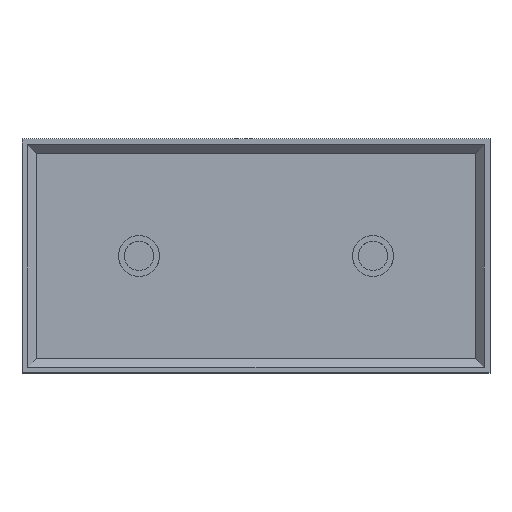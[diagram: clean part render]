
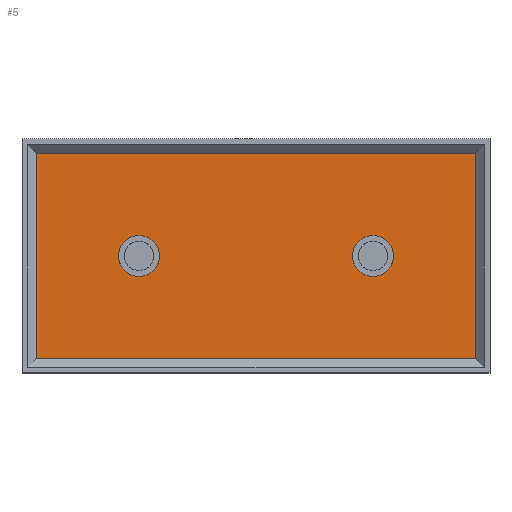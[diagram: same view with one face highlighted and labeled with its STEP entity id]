
A CAD part, top view. The second image highlights one B-rep face of the part: STEP entity #5.
In plain terms, the highlighted planar face has unit normal (0, 0, 1).
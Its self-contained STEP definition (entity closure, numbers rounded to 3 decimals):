
#3 = DIRECTION ( 'NONE',  ( 1., 0., 0. ) ) ;
#5 = ADVANCED_FACE ( 'NONE', ( #179, #798, #591 ), #186, .T. ) ;
#6 = DIRECTION ( 'NONE',  ( 0., 0., 1. ) ) ;
#13 = VERTEX_POINT ( 'NONE', #722 ) ;
#30 = DIRECTION ( 'NONE',  ( 0., 1., 0. ) ) ;
#63 = CARTESIAN_POINT ( 'NONE',  ( 20., 0., -1.5 ) ) ;
#64 = LINE ( 'NONE', #869, #550 ) ;
#85 = CARTESIAN_POINT ( 'NONE',  ( 23.5, 0., -1.5 ) ) ;
#89 = AXIS2_PLACEMENT_3D ( 'NONE', #562, #465, #377 ) ;
#90 = CARTESIAN_POINT ( 'NONE',  ( -40., 17.586, -1.5 ) ) ;
#93 = CARTESIAN_POINT ( 'NONE',  ( 0., 0., -1.5 ) ) ;
#121 = CARTESIAN_POINT ( 'NONE',  ( -37.586, 20., -1.5 ) ) ;
#128 = ORIENTED_EDGE ( 'NONE', *, *, #749, .F. ) ;
#151 = ORIENTED_EDGE ( 'NONE', *, *, #526, .F. ) ;
#152 = CARTESIAN_POINT ( 'NONE',  ( 37.586, 17.586, -1.5 ) ) ;
#155 = EDGE_LOOP ( 'NONE', ( #128, #206 ) ) ;
#179 = FACE_OUTER_BOUND ( 'NONE', #854, .T. ) ;
#186 = PLANE ( 'NONE',  #224 ) ;
#192 = CARTESIAN_POINT ( 'NONE',  ( -37.586, -17.586, -1.5 ) ) ;
#206 = ORIENTED_EDGE ( 'NONE', *, *, #468, .F. ) ;
#211 = EDGE_CURVE ( 'NONE', #746, #222, #64, .T. ) ;
#216 = LINE ( 'NONE', #121, #232 ) ;
#222 = VERTEX_POINT ( 'NONE', #687 ) ;
#224 = AXIS2_PLACEMENT_3D ( 'NONE', #93, #6, #812 ) ;
#232 = VECTOR ( 'NONE', #30, 1000. ) ;
#244 = CIRCLE ( 'NONE', #270, 3.5 ) ;
#270 = AXIS2_PLACEMENT_3D ( 'NONE', #753, #658, #566 ) ;
#271 = VERTEX_POINT ( 'NONE', #85 ) ;
#299 = EDGE_LOOP ( 'NONE', ( #151, #817 ) ) ;
#347 = DIRECTION ( 'NONE',  ( 1., 0., 0. ) ) ;
#377 = DIRECTION ( 'NONE',  ( 1., 0., 0. ) ) ;
#392 = AXIS2_PLACEMENT_3D ( 'NONE', #63, #868, #776 ) ;
#396 = VERTEX_POINT ( 'NONE', #534 ) ;
#407 = VERTEX_POINT ( 'NONE', #695 ) ;
#435 = VECTOR ( 'NONE', #3, 1000. ) ;
#436 = DIRECTION ( 'NONE',  ( 0., 0., 1. ) ) ;
#445 = CIRCLE ( 'NONE', #833, 3.5 ) ;
#463 = EDGE_CURVE ( 'NONE', #469, #396, #216, .T. ) ;
#465 = DIRECTION ( 'NONE',  ( 0., 0., 1. ) ) ;
#468 = EDGE_CURVE ( 'NONE', #271, #13, #515, .T. ) ;
#469 = VERTEX_POINT ( 'NONE', #192 ) ;
#483 = VECTOR ( 'NONE', #531, 1000. ) ;
#513 = VERTEX_POINT ( 'NONE', #533 ) ;
#515 = CIRCLE ( 'NONE', #89, 3.5 ) ;
#526 = EDGE_CURVE ( 'NONE', #407, #513, #445, .T. ) ;
#531 = DIRECTION ( 'NONE',  ( -1., 0., 0. ) ) ;
#533 = CARTESIAN_POINT ( 'NONE',  ( -16.5, 0., -1.5 ) ) ;
#534 = CARTESIAN_POINT ( 'NONE',  ( -37.586, 17.586, -1.5 ) ) ;
#545 = ORIENTED_EDGE ( 'NONE', *, *, #211, .F. ) ;
#550 = VECTOR ( 'NONE', #777, 1000. ) ;
#562 = CARTESIAN_POINT ( 'NONE',  ( 20., 0., -1.5 ) ) ;
#566 = DIRECTION ( 'NONE',  ( 1., 0., 0. ) ) ;
#587 = CIRCLE ( 'NONE', #392, 3.5 ) ;
#591 = FACE_BOUND ( 'NONE', #155, .T. ) ;
#623 = CARTESIAN_POINT ( 'NONE',  ( -40., -17.586, -1.5 ) ) ;
#625 = CARTESIAN_POINT ( 'NONE',  ( -20., 0., -1.5 ) ) ;
#658 = DIRECTION ( 'NONE',  ( 0., 0., 1. ) ) ;
#670 = ORIENTED_EDGE ( 'NONE', *, *, #885, .F. ) ;
#680 = EDGE_CURVE ( 'NONE', #513, #407, #244, .T. ) ;
#681 = ORIENTED_EDGE ( 'NONE', *, *, #882, .F. ) ;
#687 = CARTESIAN_POINT ( 'NONE',  ( 37.586, -17.586, -1.5 ) ) ;
#695 = CARTESIAN_POINT ( 'NONE',  ( -23.5, 0., -1.5 ) ) ;
#716 = LINE ( 'NONE', #623, #483 ) ;
#722 = CARTESIAN_POINT ( 'NONE',  ( 16.5, 0., -1.5 ) ) ;
#746 = VERTEX_POINT ( 'NONE', #152 ) ;
#749 = EDGE_CURVE ( 'NONE', #13, #271, #587, .T. ) ;
#753 = CARTESIAN_POINT ( 'NONE',  ( -20., 0., -1.5 ) ) ;
#776 = DIRECTION ( 'NONE',  ( 1., 0., 0. ) ) ;
#777 = DIRECTION ( 'NONE',  ( 0., -1., 0. ) ) ;
#798 = FACE_BOUND ( 'NONE', #299, .T. ) ;
#799 = ORIENTED_EDGE ( 'NONE', *, *, #463, .F. ) ;
#812 = DIRECTION ( 'NONE',  ( 1., 0., 0. ) ) ;
#817 = ORIENTED_EDGE ( 'NONE', *, *, #680, .F. ) ;
#833 = AXIS2_PLACEMENT_3D ( 'NONE', #625, #436, #347 ) ;
#850 = LINE ( 'NONE', #90, #435 ) ;
#854 = EDGE_LOOP ( 'NONE', ( #670, #545, #681, #799 ) ) ;
#868 = DIRECTION ( 'NONE',  ( 0., 0., 1. ) ) ;
#869 = CARTESIAN_POINT ( 'NONE',  ( 37.586, 20., -1.5 ) ) ;
#882 = EDGE_CURVE ( 'NONE', #396, #746, #850, .T. ) ;
#885 = EDGE_CURVE ( 'NONE', #222, #469, #716, .T. ) ;
